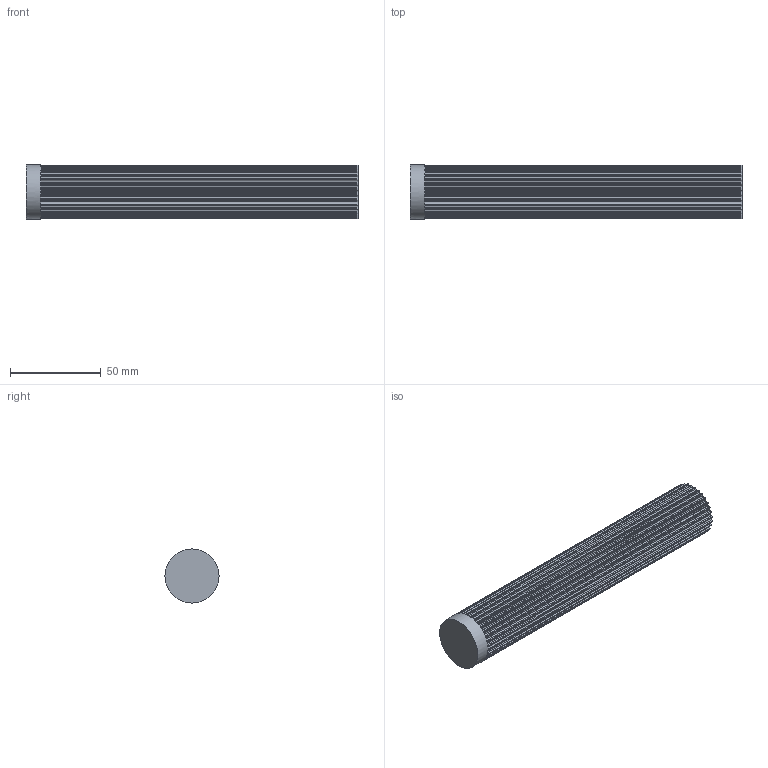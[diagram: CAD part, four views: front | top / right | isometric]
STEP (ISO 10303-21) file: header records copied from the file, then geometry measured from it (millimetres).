
FILE_DESCRIPTION( ( 'STEP AP214' ), '1' );
FILE_NAME( 'C:/Users/StangenbergN/Desktop/Steps Zahnriemenräder/K166_HTD-Zahnwellen/17093200.stp', '2019-06-06T09:34:45', ( '' ), ( '' ), ' ', 'PARTsolutions', ' ' );
FILE_SCHEMA( ( 'AUTOMOTIVE_DESIGN { 1 0 10303 214 1 1 1 1 }' ) );
Length unit declared in the file: millimetre
Products named in the file (1): _17093200
Bounding box: 183 x 29.8 x 29.8 mm (x, y, z)
Volume: 115740.8 mm3; surface area: 24467.1 mm2
Topology: 1 solids, 1 shells, 259 faces, 771 edges, 514 vertices
Faces by surface type: plane 130, cylinder 129
Full cylindrical faces by diameter (mm): 29.8 x1
Entity records: 10900 total; most frequent: DIRECTION 1610, CARTESIAN_POINT 1542, ORIENTED_EDGE 1538, EDGE_CURVE 769, AXIS2_PLACEMENT_3D 581, VERTEX_POINT 513, LINE 448, VECTOR 448
